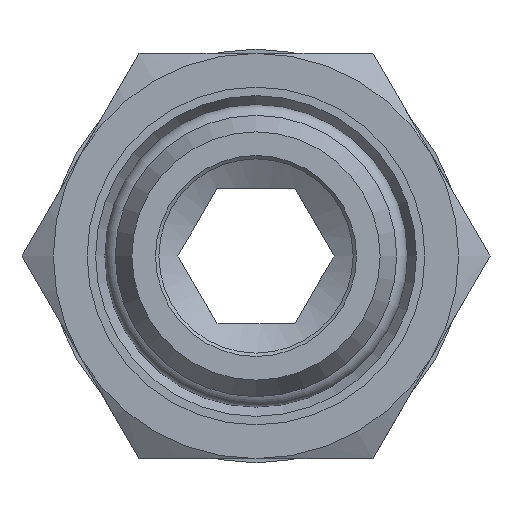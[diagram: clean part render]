
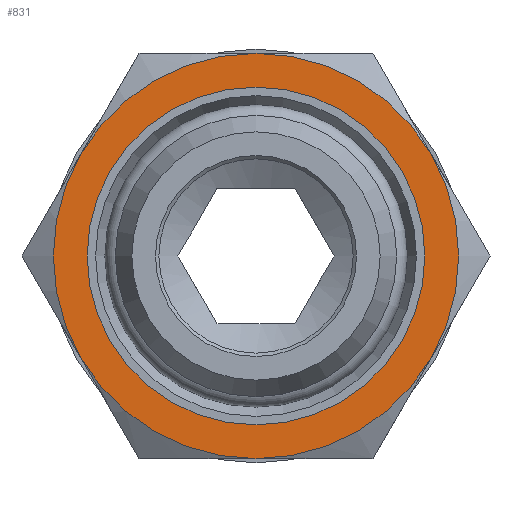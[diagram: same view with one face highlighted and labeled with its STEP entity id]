
A CAD part, front view. The second image highlights one B-rep face of the part: STEP entity #831.
In plain terms, the highlighted planar face has unit normal (0, -1, 0).
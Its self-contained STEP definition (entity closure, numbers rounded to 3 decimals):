
#140=FACE_BOUND('',#257,.T.);
#161=PLANE('',#939);
#203=FACE_OUTER_BOUND('',#256,.T.);
#256=EDGE_LOOP('',(#705,#706,#707,#708,#709,#710));
#257=EDGE_LOOP('',(#711,#712));
#308=CIRCLE('',#907,12.);
#309=CIRCLE('',#909,12.);
#310=CIRCLE('',#911,12.);
#311=CIRCLE('',#913,12.);
#312=CIRCLE('',#915,12.);
#313=CIRCLE('',#917,12.);
#316=CIRCLE('',#940,10.);
#317=CIRCLE('',#941,10.);
#372=VERTEX_POINT('',#1334);
#373=VERTEX_POINT('',#1338);
#375=VERTEX_POINT('',#1345);
#377=VERTEX_POINT('',#1355);
#379=VERTEX_POINT('',#1368);
#381=VERTEX_POINT('',#1378);
#397=VERTEX_POINT('',#1483);
#398=VERTEX_POINT('',#1484);
#463=EDGE_CURVE('',#372,#373,#308,.T.);
#466=EDGE_CURVE('',#375,#372,#309,.T.);
#469=EDGE_CURVE('',#377,#375,#310,.T.);
#471=EDGE_CURVE('',#379,#377,#311,.T.);
#474=EDGE_CURVE('',#381,#379,#312,.T.);
#477=EDGE_CURVE('',#373,#381,#313,.T.);
#512=EDGE_CURVE('',#397,#398,#316,.T.);
#513=EDGE_CURVE('',#398,#397,#317,.T.);
#705=ORIENTED_EDGE('',*,*,#477,.T.);
#706=ORIENTED_EDGE('',*,*,#474,.T.);
#707=ORIENTED_EDGE('',*,*,#471,.T.);
#708=ORIENTED_EDGE('',*,*,#469,.T.);
#709=ORIENTED_EDGE('',*,*,#466,.T.);
#710=ORIENTED_EDGE('',*,*,#463,.T.);
#711=ORIENTED_EDGE('',*,*,#512,.F.);
#712=ORIENTED_EDGE('',*,*,#513,.F.);
#831=ADVANCED_FACE('',(#203,#140),#161,.T.);
#907=AXIS2_PLACEMENT_3D('',#1342,#1066,#1067);
#909=AXIS2_PLACEMENT_3D('',#1352,#1070,#1071);
#911=AXIS2_PLACEMENT_3D('',#1362,#1074,#1075);
#913=AXIS2_PLACEMENT_3D('',#1369,#1078,#1079);
#915=AXIS2_PLACEMENT_3D('',#1379,#1082,#1083);
#917=AXIS2_PLACEMENT_3D('',#1388,#1086,#1087);
#939=AXIS2_PLACEMENT_3D('',#1482,#1149,#1150);
#940=AXIS2_PLACEMENT_3D('',#1485,#1151,#1152);
#941=AXIS2_PLACEMENT_3D('',#1486,#1153,#1154);
#1066=DIRECTION('center_axis',(0.,-1.,0.));
#1067=DIRECTION('ref_axis',(-1.,0.,0.));
#1070=DIRECTION('center_axis',(0.,-1.,0.));
#1071=DIRECTION('ref_axis',(-1.,0.,0.));
#1074=DIRECTION('center_axis',(0.,-1.,0.));
#1075=DIRECTION('ref_axis',(-1.,0.,0.));
#1078=DIRECTION('center_axis',(0.,-1.,0.));
#1079=DIRECTION('ref_axis',(-1.,0.,0.));
#1082=DIRECTION('center_axis',(0.,-1.,0.));
#1083=DIRECTION('ref_axis',(-1.,0.,0.));
#1086=DIRECTION('center_axis',(0.,-1.,0.));
#1087=DIRECTION('ref_axis',(-1.,0.,0.));
#1149=DIRECTION('center_axis',(0.,-1.,0.));
#1150=DIRECTION('ref_axis',(0.,0.,-1.));
#1151=DIRECTION('center_axis',(0.,-1.,0.));
#1152=DIRECTION('ref_axis',(1.,0.,0.));
#1153=DIRECTION('center_axis',(0.,-1.,0.));
#1154=DIRECTION('ref_axis',(1.,0.,0.));
#1334=CARTESIAN_POINT('',(-10.392,12.5,6.));
#1338=CARTESIAN_POINT('',(-10.392,12.5,-6.));
#1342=CARTESIAN_POINT('Origin',(0.,12.5,0.));
#1345=CARTESIAN_POINT('',(0.,12.5,12.));
#1352=CARTESIAN_POINT('Origin',(0.,12.5,0.));
#1355=CARTESIAN_POINT('',(10.392,12.5,6.));
#1362=CARTESIAN_POINT('Origin',(0.,12.5,0.));
#1368=CARTESIAN_POINT('',(10.392,12.5,-6.));
#1369=CARTESIAN_POINT('Origin',(0.,12.5,0.));
#1378=CARTESIAN_POINT('',(0.,12.5,-12.));
#1379=CARTESIAN_POINT('Origin',(0.,12.5,0.));
#1388=CARTESIAN_POINT('Origin',(0.,12.5,0.));
#1482=CARTESIAN_POINT('Origin',(10.,12.5,0.));
#1483=CARTESIAN_POINT('',(10.,12.5,0.));
#1484=CARTESIAN_POINT('',(-10.,12.5,0.));
#1485=CARTESIAN_POINT('Origin',(0.,12.5,0.));
#1486=CARTESIAN_POINT('Origin',(0.,12.5,0.));
